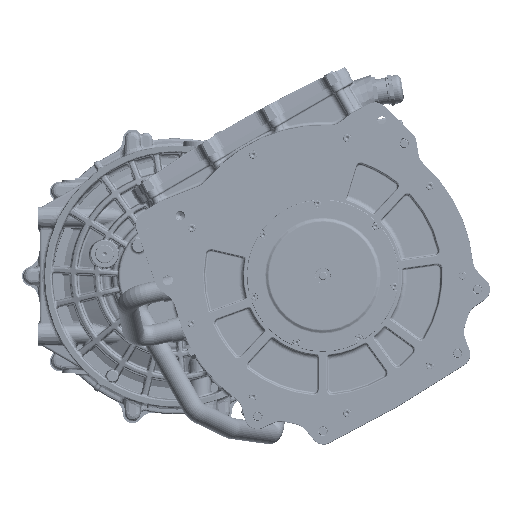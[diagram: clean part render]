
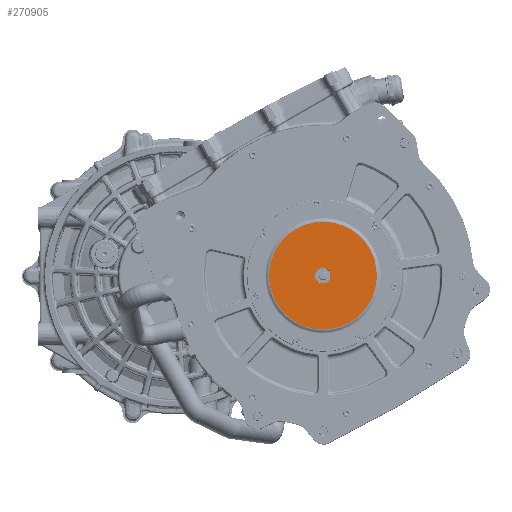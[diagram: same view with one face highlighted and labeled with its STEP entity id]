
A CAD part, top view. The second image highlights one B-rep face of the part: STEP entity #270905.
In plain terms, the highlighted planar face has unit normal (0, 0, 1).
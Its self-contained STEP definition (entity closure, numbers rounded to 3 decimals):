
#6012=FACE_BOUND('',#65993,.T.);
#9688=PLANE('',#294574);
#49625=FACE_OUTER_BOUND('',#65992,.T.);
#65992=EDGE_LOOP('',(#228792,#228793));
#65993=EDGE_LOOP('',(#228794,#228795));
#79435=CIRCLE('',#294575,69.143);
#79436=CIRCLE('',#294576,69.143);
#79437=CIRCLE('',#294577,10.);
#79438=CIRCLE('',#294578,10.);
#114787=VERTEX_POINT('',#648903);
#114788=VERTEX_POINT('',#648904);
#114789=VERTEX_POINT('',#648907);
#114790=VERTEX_POINT('',#648908);
#153104=EDGE_CURVE('',#114787,#114788,#79435,.T.);
#153105=EDGE_CURVE('',#114788,#114787,#79436,.T.);
#153106=EDGE_CURVE('',#114789,#114790,#79437,.T.);
#153107=EDGE_CURVE('',#114790,#114789,#79438,.T.);
#228792=ORIENTED_EDGE('',*,*,#153104,.F.);
#228793=ORIENTED_EDGE('',*,*,#153105,.F.);
#228794=ORIENTED_EDGE('',*,*,#153106,.T.);
#228795=ORIENTED_EDGE('',*,*,#153107,.T.);
#270905=ADVANCED_FACE('',(#49625,#6012),#9688,.T.);
#294574=AXIS2_PLACEMENT_3D('',#648902,#350092,#350093);
#294575=AXIS2_PLACEMENT_3D('',#648905,#350094,#350095);
#294576=AXIS2_PLACEMENT_3D('',#648906,#350096,#350097);
#294577=AXIS2_PLACEMENT_3D('',#648909,#350098,#350099);
#294578=AXIS2_PLACEMENT_3D('',#648910,#350100,#350101);
#350092=DIRECTION('center_axis',(0.,0.,
1.));
#350093=DIRECTION('ref_axis',(-0.931,0.365,0.));
#350094=DIRECTION('center_axis',(0.,0.,
-1.));
#350095=DIRECTION('ref_axis',(0.365,0.931,0.));
#350096=DIRECTION('center_axis',(0.,0.,
-1.));
#350097=DIRECTION('ref_axis',(0.365,0.931,0.));
#350098=DIRECTION('center_axis',(0.,0.,
-1.));
#350099=DIRECTION('ref_axis',(-0.931,0.365,0.));
#350100=DIRECTION('center_axis',(0.,0.,
-1.));
#350101=DIRECTION('ref_axis',(-0.931,0.365,0.));
#648902=CARTESIAN_POINT('Origin',(-25.574,-65.161,504.57));
#648903=CARTESIAN_POINT('',(-25.261,-64.363,504.57));
#648904=CARTESIAN_POINT('',(-64.363,25.261,504.57));
#648905=CARTESIAN_POINT('Origin',(0.,0.,
504.57));
#648906=CARTESIAN_POINT('Origin',(0.,0.,
504.57));
#648907=CARTESIAN_POINT('',(-9.309,3.653,504.57));
#648908=CARTESIAN_POINT('',(9.309,-3.653,504.57));
#648909=CARTESIAN_POINT('Origin',(0.,0.,
504.57));
#648910=CARTESIAN_POINT('Origin',(0.,0.,
504.57));
